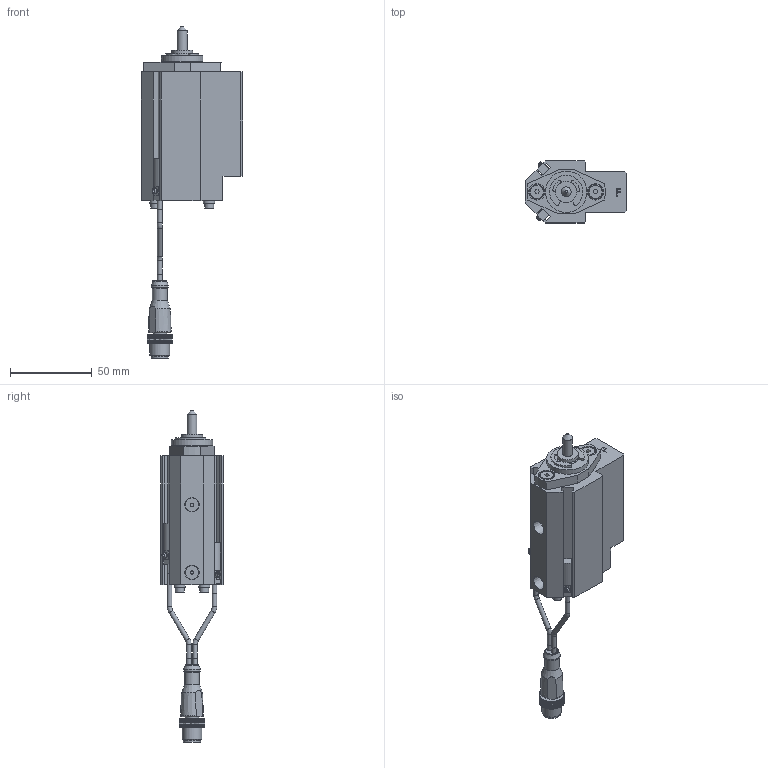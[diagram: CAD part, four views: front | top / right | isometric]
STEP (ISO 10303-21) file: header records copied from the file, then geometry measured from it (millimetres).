
FILE_DESCRIPTION(/* description */ ('NAAMS FLOATING MICRO PIN'),/* implementation_level */ '2;1');
FILE_NAME(/* name */ 'C:\Vault Workspace\CAD\Welker\Shot Pin\NMP\NMP060012FANL3.stp',/* time_stamp */ '2021-01-27T08:28:46-05:00',/* author */ ('KLabrecque'),/* organization */ (''),/* preprocessor_version */ 'ST-DEVELOPER v18.1',/* originating_system */ 'Autodesk Inventor 2020',/* authorisation */ '');
FILE_SCHEMA (('AUTOMOTIVE_DESIGN { 1 0 10303 214 3 1 1 }'));
Length unit declared in the file: millimetre
Products named in the file (16): NMPL01; NMP L3 SWITCH; L3 Connector; L3 Sensor 1; L3 Sensor 2; L3 Sensor cable; L3 Sensor cable 2; M3X0.5-8 SHCS; NL3; NMPE06; NMPE03; NMPE05-DIA-LENGTH; 985432A218; NMPE01F-PORT; RMPE02; M5X5 SHOULDER
Assembly tree (22 placements, depth 3):
  NMPL01
    NMP L3 SWITCH
      L3 Connector
      L3 Sensor 1
      L3 Sensor 2
      L3 Sensor cable
      L3 Sensor cable 2
    M3X0.5-8 SHCS  x4
    NL3  x4
    NMPE06
    NMPE03
    NMPE05-DIA-LENGTH
    985432A218
    NMPE01F-PORT
    RMPE02
    M5X5 SHOULDER  x2
Bounding box: 62 x 38.1 x 203.54 mm (x, y, z)
Volume: 111817.6 mm3; surface area: 44580.1 mm2
Topology: 21 solids, 21 shells, 746 faces, 2022 edges, 1352 vertices
Faces by surface type: plane 551, cylinder 144, cone 35, torus 11, sphere 3, bspline 2
Full cylindrical faces by diameter (mm): 2 x2, 2.459 x4, 2.9 x10, 3 x5, 3.242 x2, 3.4 x4, 4 x2, 5 x6, 5.5 x4, 6 x1, 7 x4, 8 x2, 8.3 x2, 8.376 x2, 9 x3, 10 x3, 10.4 x1, 10.5 x1, 12 x1, 13 x3, 16 x2, 19.05 x3, 21 x1, 22.5 x1, 23.672 x1, 24 x1, 25.4 x1, 25.5 x1, 26.5 x1, 28.677 x1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
Entity records: 22784 total; most frequent: CARTESIAN_POINT 4167, ORIENTED_EDGE 3738, DIRECTION 3725, EDGE_CURVE 1869, LINE 1381, VECTOR 1381, VERTEX_POINT 1257, AXIS2_PLACEMENT_3D 1172
